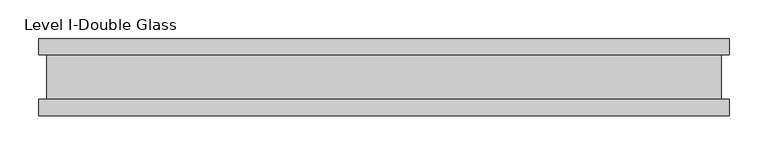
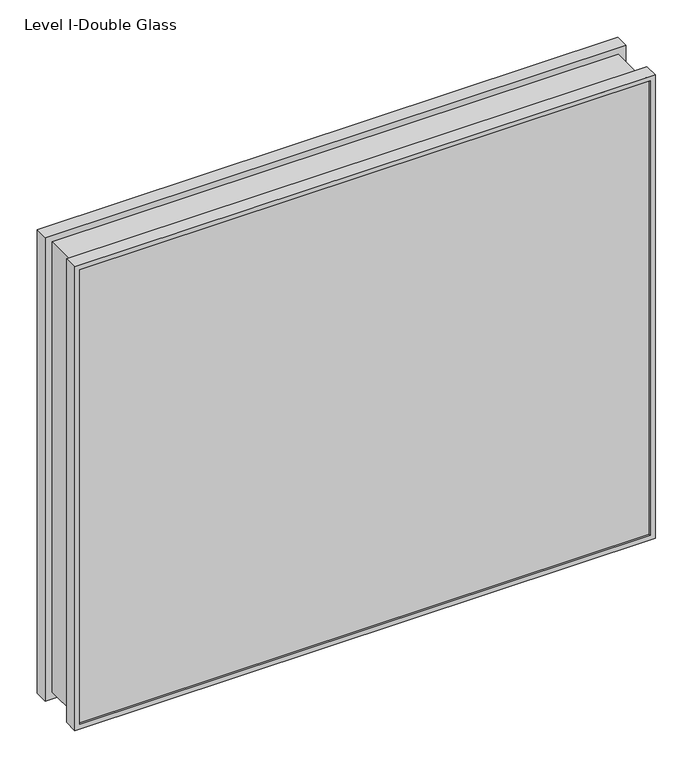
"""IFC4 building model written with IfcOpenShell, lengths in millimetres: proxy geometry, Panel-Fascia-Teknion-Altos-Double_Glass : Level I-Double Glass."""

from ifc_helpers import new_model, si_unit, frame, origin, place, context, project, spatial, polyline, ellipse_curve, outline, extrude, source, transform, mapped, element, save
from ifc_brep_helpers import plane_surface, cylinder_surface, advanced_brep


def level_i_double_glass_59891672(model_context):
    return source(origin(), model_context, "Body", "SolidModel", [
        advanced_brep(
        [(447.6253906, -50.0558594, 758.825), (447.6253906, -50.0558594, 3.175), (447.6253906, -28.2698798, 3.175), (447.6253906, -28.2698798, 758.825), (440.1901828, -47.1322551, 751.3897922), (440.1901828, -47.1322551, 10.6102078), (440.1901828, -50.0558594, 10.6102078), (440.1901828, -50.0558594, 751.3897922), (445.4728643, -41.1791301, 756.6724737), (445.4728643, -41.1791301, 5.3275263), (445.4728643, -47.1322551, 5.3275263), (445.4728643, -47.1322551, 756.6724737), (439.6679752, 40.9277344, 750.8675845), (439.6679752, 40.9277344, 11.1324155), (439.6679752, -41.1791301, 11.1324155), (439.6679752, -41.1791301, 750.8675845), (445.4728643, 46.8808594, 756.6724737), (445.4728643, 46.8808594, 5.3275263), (445.4728643, 40.9277344, 5.3275263), (445.4728643, 40.9277344, 756.6724737), (440.1901828, 50.0558594, 751.3897922), (440.1901828, 50.0558594, 10.6102078), (440.1901828, 46.8808594, 10.6102078), (440.1901828, 46.8808594, 751.3897922), (447.6253906, 28.8801202, 758.825), (447.6253906, 28.8801202, 3.175), (447.6253906, 50.0558594, 3.175), (447.6253906, 50.0558594, 758.825), (436.7735493, -28.2698798, 747.9731586), (436.7735493, -28.2698798, 14.0268414), (436.7735493, 28.8801202, 14.0268414), (436.7735493, 28.8801202, 747.9731586), (-447.6253906, -50.0558594, 3.175), (-447.6253906, -28.2698798, 3.175), (-440.1901828, -47.1322551, 10.6102078), (-440.1901828, -50.0558594, 10.6102078), (-445.4728643, -41.1791301, 5.3275263), (-445.4728643, -47.1322551, 5.3275263), (-439.6679752, 40.9277344, 11.1324155), (-439.6679752, -41.1791301, 11.1324155), (-445.4728643, 46.8808594, 5.3275263), (-445.4728643, 40.9277344, 5.3275263), (-440.1901828, 50.0558594, 10.6102078), (-440.1901828, 46.8808594, 10.6102078), (-447.6253906, 28.8801202, 3.175), (-447.6253906, 50.0558594, 3.175), (-436.7735493, -28.2698798, 14.0268414), (-436.7735493, 28.8801202, 14.0268414), (-447.6253906, -50.0558594, 758.825), (-447.6253906, -28.2698798, 758.825), (-440.1901828, -47.1322551, 751.3897922), (-440.1901828, -50.0558594, 751.3897922), (-445.4728643, -41.1791301, 756.6724737), (-445.4728643, -47.1322551, 756.6724737), (-439.6679752, 40.9277344, 750.8675845), (-439.6679752, -41.1791301, 750.8675845), (-445.4728643, 46.8808594, 756.6724737), (-445.4728643, 40.9277344, 756.6724737), (-440.1901828, 50.0558594, 751.3897922), (-440.1901828, 46.8808594, 751.3897922), (-447.6253906, 28.8801202, 758.825), (-447.6253906, 50.0558594, 758.825), (-436.7735493, -28.2698798, 747.9731586), (-436.7735493, 28.8801202, 747.9731586)],
        [
            (0, 1),
            (1, 2),
            (2, 3),
            (3, 0),
            (4, 5),
            (5, 6),
            (6, 7),
            (7, 4),
            (8, 9),
            (9, 10),
            (10, 11),
            (11, 8),
            (12, 13),
            (13, 14, ellipse_curve(frame((479.0538175, -0.1256979, -28.2534268), z_axis=(0.7071067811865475, 0.0, 0.7071067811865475), x_axis=(-0.7071067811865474, 0.0, 0.7071067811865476)), 80.4565581, 56.8913778)),
            (14, 15),
            (15, 12, ellipse_curve(frame((479.0538175, -0.1256979, 790.2534268), z_axis=(0.7071067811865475, 0.0, -0.7071067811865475), x_axis=(0.7071067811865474, 0.0, 0.7071067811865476)), 80.4565581, 56.8913778)),
            (16, 17),
            (17, 18),
            (18, 19),
            (19, 16),
            (20, 21),
            (21, 22),
            (22, 23),
            (23, 20),
            (24, 25),
            (25, 26),
            (26, 27),
            (27, 24),
            (28, 29),
            (29, 30),
            (30, 31),
            (31, 28),
            (1, 32),
            (32, 33),
            (33, 2),
            (5, 34),
            (34, 35),
            (35, 6),
            (9, 36),
            (36, 37),
            (37, 10),
            (13, 38),
            (38, 39, ellipse_curve(frame((-479.0538175, -0.1256979, -28.2534268), z_axis=(0.7071067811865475, 0.0, -0.7071067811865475), x_axis=(0.7071067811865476, 0.0, 0.7071067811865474)), 80.4565581, 56.8913778)),
            (39, 14),
            (17, 40),
            (40, 41),
            (41, 18),
            (21, 42),
            (42, 43),
            (43, 22),
            (25, 44),
            (44, 45),
            (45, 26),
            (29, 46),
            (46, 47),
            (47, 30),
            (32, 48),
            (48, 49),
            (49, 33),
            (34, 50),
            (50, 51),
            (51, 35),
            (36, 52),
            (52, 53),
            (53, 37),
            (38, 54),
            (54, 55, ellipse_curve(frame((-479.0538175, -0.1256979, 790.2534268), z_axis=(-0.7071067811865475, 0.0, -0.7071067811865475), x_axis=(0.7071067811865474, 0.0, -0.7071067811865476)), 80.4565581, 56.8913778)),
            (55, 39),
            (40, 56),
            (56, 57),
            (57, 41),
            (42, 58),
            (58, 59),
            (59, 43),
            (44, 60),
            (60, 61),
            (61, 45),
            (46, 62),
            (62, 63),
            (63, 47),
            (48, 0),
            (3, 49),
            (51, 7),
            (50, 4),
            (53, 11),
            (52, 8),
            (55, 15),
            (54, 12),
            (57, 19),
            (56, 16),
            (59, 23),
            (58, 20),
            (61, 27),
            (60, 24),
            (63, 31),
            (62, 28),
        ],
        [
            plane_surface(frame((447.6253906, -28.2698798, 758.825), z_axis=(1.0, 0.0, 0.0), x_axis=(0.0, 0.0, -1.0))),
            plane_surface(frame((440.1901828, -50.0558594, 751.3897922), z_axis=(-1.0, 0.0, 0.0), x_axis=(0.0, 0.0, -1.0))),
            plane_surface(frame((445.4728643, -47.1322551, 756.6724737), z_axis=(-1.0, 0.0, 0.0), x_axis=(0.0, 0.0, -1.0))),
            cylinder_surface(frame((479.0538175, -0.1256979, 758.825), z_axis=(0.0, 0.0, 1.0), x_axis=(1.0, 0.0, 0.0)), 56.8913778),
            plane_surface(frame((445.4728643, 40.9277344, 756.6724737), z_axis=(-1.0, 0.0, 0.0), x_axis=(0.0, 0.0, -1.0))),
            plane_surface(frame((440.1901828, 46.8808594, 751.3897922), z_axis=(-1.0, 0.0, 0.0), x_axis=(0.0, 0.0, -1.0))),
            plane_surface(frame((447.6253906, 50.0558594, 758.825), z_axis=(1.0, 0.0, 0.0), x_axis=(0.0, 0.0, -1.0))),
            plane_surface(frame((436.7735493, 28.8801202, 747.9731586), z_axis=(1.0, 0.0, 0.0), x_axis=(0.0, 0.0, -1.0))),
            plane_surface(frame((447.6253906, -28.2698798, 3.175), z_axis=(0.0, 0.0, -1.0), x_axis=(-1.0, 0.0, 0.0))),
            plane_surface(frame((440.1901828, -50.0558594, 10.6102078), z_axis=(0.0, 0.0, 1.0), x_axis=(-1.0, 0.0, 0.0))),
            plane_surface(frame((445.4728643, -47.1322551, 5.3275263), z_axis=(0.0, 0.0, 1.0), x_axis=(-1.0, 0.0, 0.0))),
            cylinder_surface(frame((447.6253906, -0.1256979, -28.2534268), z_axis=(1.0, 0.0, 0.0), x_axis=(0.0, 0.0, -1.0)), 56.8913778),
            plane_surface(frame((445.4728643, 40.9277344, 5.3275263), z_axis=(0.0, 0.0, 1.0), x_axis=(-1.0, 0.0, 0.0))),
            plane_surface(frame((440.1901828, 46.8808594, 10.6102078), z_axis=(0.0, 0.0, 1.0), x_axis=(-1.0, 0.0, 0.0))),
            plane_surface(frame((447.6253906, 50.0558594, 3.175), z_axis=(0.0, 0.0, -1.0), x_axis=(-1.0, 0.0, 0.0))),
            plane_surface(frame((436.7735493, 28.8801202, 14.0268414), z_axis=(0.0, 0.0, -1.0), x_axis=(-1.0, 0.0, 0.0))),
            plane_surface(frame((-447.6253906, -28.2698798, 3.175), z_axis=(-1.0, 0.0, 0.0), x_axis=(0.0, 0.0, 1.0))),
            plane_surface(frame((-440.1901828, -50.0558594, 10.6102078), z_axis=(1.0, 0.0, 0.0), x_axis=(0.0, 0.0, 1.0))),
            plane_surface(frame((-445.4728643, -47.1322551, 5.3275263), z_axis=(1.0, 0.0, 0.0), x_axis=(0.0, 0.0, 1.0))),
            cylinder_surface(frame((-479.0538175, -0.1256979, 3.175), z_axis=(0.0, 0.0, -1.0), x_axis=(-1.0, 0.0, 0.0)), 56.8913778),
            plane_surface(frame((-445.4728643, 40.9277344, 5.3275263), z_axis=(1.0, 0.0, 0.0), x_axis=(0.0, 0.0, 1.0))),
            plane_surface(frame((-440.1901828, 46.8808594, 10.6102078), z_axis=(1.0, 0.0, 0.0), x_axis=(0.0, 0.0, 1.0))),
            plane_surface(frame((-447.6253906, 50.0558594, 3.175), z_axis=(-1.0, 0.0, 0.0), x_axis=(0.0, 0.0, 1.0))),
            plane_surface(frame((-436.7735493, 28.8801202, 14.0268414), z_axis=(-1.0, 0.0, 0.0), x_axis=(0.0, 0.0, 1.0))),
            plane_surface(frame((-447.6253906, -28.2698798, 758.825), z_axis=(0.0, 0.0, 1.0), x_axis=(1.0, 0.0, 0.0))),
            plane_surface(frame((-447.6253906, -50.0558594, 758.825), z_axis=(0.0, -1.0, 0.0), x_axis=(1.0, 0.0, 0.0))),
            plane_surface(frame((-440.1901828, -50.0558594, 751.3897922), z_axis=(0.0, 0.0, -1.0), x_axis=(1.0, 0.0, 0.0))),
            plane_surface(frame((-440.1901828, -47.1322551, 751.3897922), z_axis=(0.0, 1.0, 0.0), x_axis=(1.0, 0.0, 0.0))),
            plane_surface(frame((-445.4728643, -47.1322551, 756.6724737), z_axis=(0.0, 0.0, -1.0), x_axis=(1.0, 0.0, 0.0))),
            plane_surface(frame((-445.4728643, -41.1791301, 756.6724737), z_axis=(0.0, -1.0, 0.0), x_axis=(1.0, 0.0, 0.0))),
            cylinder_surface(frame((-447.6253906, -0.1256979, 790.2534268), z_axis=(-1.0, 0.0, 0.0), x_axis=(0.0, 0.0, 1.0)), 56.8913778),
            plane_surface(frame((-439.6679752, 40.9277344, 750.8675845), z_axis=(0.0, 1.0, 0.0), x_axis=(1.0, 0.0, 0.0))),
            plane_surface(frame((-445.4728643, 40.9277344, 756.6724737), z_axis=(0.0, 0.0, -1.0), x_axis=(1.0, 0.0, 0.0))),
            plane_surface(frame((-445.4728643, 46.8808594, 756.6724737), z_axis=(0.0, -1.0, 0.0), x_axis=(1.0, 0.0, 0.0))),
            plane_surface(frame((-440.1901828, 46.8808594, 751.3897922), z_axis=(0.0, 0.0, -1.0), x_axis=(1.0, 0.0, 0.0))),
            plane_surface(frame((-440.1901828, 50.0558594, 751.3897922), z_axis=(0.0, 1.0, 0.0), x_axis=(1.0, 0.0, 0.0))),
            plane_surface(frame((-447.6253906, 50.0558594, 758.825), z_axis=(0.0, 0.0, 1.0), x_axis=(1.0, 0.0, 0.0))),
            plane_surface(frame((-447.6253906, 28.8801202, 758.825), z_axis=(0.0, -1.0, 0.0), x_axis=(1.0, 0.0, 0.0))),
            plane_surface(frame((-436.7735493, 28.8801202, 747.9731586), z_axis=(0.0, 0.0, 1.0), x_axis=(1.0, 0.0, 0.0))),
            plane_surface(frame((-436.7735493, -28.2698798, 747.9731586), z_axis=(0.0, 1.0, 0.0), x_axis=(1.0, 0.0, 0.0))),
        ],
        [
            (0, [[1, 2, 3, 4]]),
            (1, [[5, 6, 7, 8]]),
            (2, [[9, 10, 11, 12]]),
            (3, [[13, 14, 15, 16]]),
            (4, [[17, 18, 19, 20]]),
            (5, [[21, 22, 23, 24]]),
            (6, [[25, 26, 27, 28]]),
            (7, [[29, 30, 31, 32]]),
            (8, [[33, 34, 35, -2]]),
            (9, [[36, 37, 38, -6]]),
            (10, [[39, 40, 41, -10]]),
            (11, [[42, 43, 44, -14]]),
            (12, [[45, 46, 47, -18]]),
            (13, [[48, 49, 50, -22]]),
            (14, [[51, 52, 53, -26]]),
            (15, [[54, 55, 56, -30]]),
            (16, [[57, 58, 59, -34]]),
            (17, [[60, 61, 62, -37]]),
            (18, [[63, 64, 65, -40]]),
            (19, [[66, 67, 68, -43]]),
            (20, [[69, 70, 71, -46]]),
            (21, [[72, 73, 74, -49]]),
            (22, [[75, 76, 77, -52]]),
            (23, [[78, 79, 80, -55]]),
            (24, [[81, -4, 82, -58]]),
            (25, [[-1, -81, -57, -33], [-7, -38, -62, 83]]),
            (26, [[84, -8, -83, -61]]),
            (27, [[-11, -41, -65, 85], [-5, -84, -60, -36]]),
            (28, [[86, -12, -85, -64]]),
            (29, [[-9, -86, -63, -39], [-15, -44, -68, 87]]),
            (30, [[88, -16, -87, -67]]),
            (31, [[-19, -47, -71, 89], [-13, -88, -66, -42]]),
            (32, [[90, -20, -89, -70]]),
            (33, [[-17, -90, -69, -45], [-23, -50, -74, 91]]),
            (34, [[92, -24, -91, -73]]),
            (35, [[-27, -53, -77, 93], [-21, -92, -72, -48]]),
            (36, [[94, -28, -93, -76]]),
            (37, [[-25, -94, -75, -51], [-31, -56, -80, 95]]),
            (38, [[96, -32, -95, -79]]),
            (39, [[-3, -35, -59, -82], [-29, -96, -78, -54]]),
        ],
    ),
        extrude(outline(polyline([(445.4728643, 40.9277344), (-445.4728643, 40.9277344), (-445.4728643, 46.8808594), (445.4728643, 46.8808594), (445.4728643, 40.9277344)])), frame((0.0, 0.0, 5.3275263), z_axis=(0.0, 0.0, 1.0), x_axis=(1.0, 0.0, 0.0)), (0.0, 0.0, 1.0), 750.850928),
        extrude(outline(polyline([(445.4728643, -41.1791301), (445.4728643, -47.1322551), (-445.4728643, -47.1322551), (-445.4728643, -41.1791301), (445.4728643, -41.1791301)])), frame((0.0, 0.0, 5.3275263), z_axis=(0.0, 0.0, 1.0), x_axis=(1.0, 0.0, 0.0)), (0.0, 0.0, 1.0), 750.850928),
    ])


if __name__ == "__main__":
    model = new_model("IFC4")
    model_context = context("Model", 3, world=origin())
    ifc_project = project(units=[si_unit("LENGTHUNIT", "METRE", prefix="MILLI")], contexts=[model_context])
    site = spatial("IfcSite", under=ifc_project)
    building = spatial("IfcBuilding", under=site)
    placement = place(None, origin())
    level_i_double_glass_shape = level_i_double_glass_59891672(model_context)
    element("IfcBuildingElementProxy", 1, Name="Panel-Fascia-Teknion-Altos-Double_Glass : Level I-Double Glass", ObjectType="Panel-Fascia-Teknion-Altos-Double_Glass : Level I-Double Glass", at=placement, inside=building, context=model_context, shape_type="MappedRepresentation", body=[
        mapped(level_i_double_glass_shape, transform((0.0, 0.0, 0.0), x_axis=(1.0, 0.0, 0.0), y_axis=(0.0, 1.0, 0.0), z_axis=(0.0, 0.0, 1.0))),
    ])
    save(model, "model.ifc")
